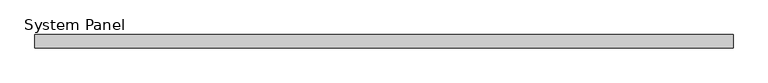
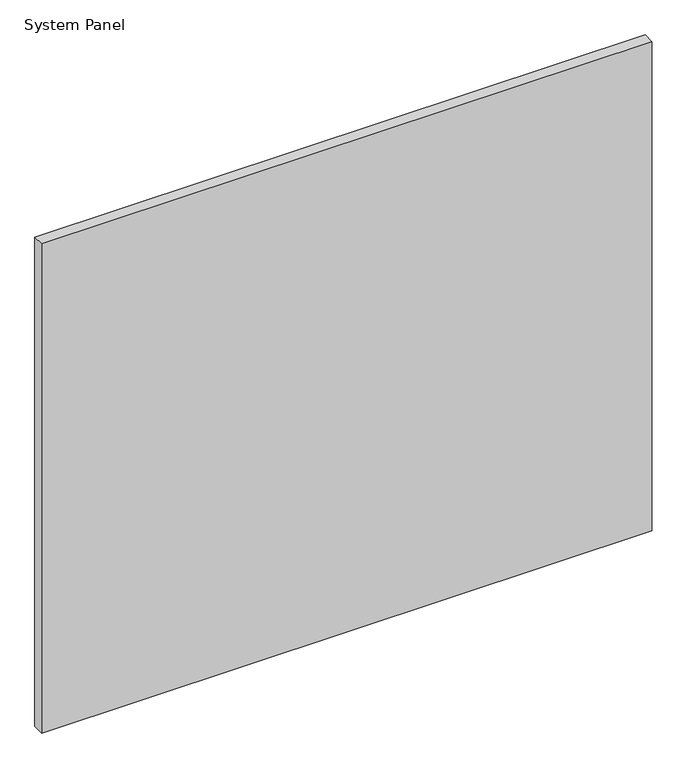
"""IFC4 building model written with IfcOpenShell, lengths in millimetres: plate geometry, System Panel : Glazed - ACMP (AL-1)."""

from ifc_helpers import new_model, si_unit, origin, origin_with_axes, place, context, project, spatial, polyline, outline, extrude, source, transform, mapped, element, save


def system_panel_1c388e69(model_context):
    return source(origin(), model_context, "Body", "SweptSolid", [
        extrude(outline(polyline([(664.1925819, -25.4), (-664.1925819, -25.4), (-664.1925819, 0.0), (664.1925819, 0.0), (664.1925819, -25.4)])), origin_with_axes(), (0.0, 0.0, 1.0), 1124.7926944),
    ])


if __name__ == "__main__":
    model = new_model("IFC4")
    model_context = context("Model", 3, world=origin())
    ifc_project = project(units=[si_unit("LENGTHUNIT", "METRE", prefix="MILLI")], contexts=[model_context])
    site = spatial("IfcSite", under=ifc_project)
    building = spatial("IfcBuilding", under=site)
    placement = place(None, origin())
    system_panel_shape = system_panel_1c388e69(model_context)
    element("IfcPlate", 1, ObjectType="System Panel : Glazed - ACMP (AL-1)", at=placement, inside=building, context=model_context, shape_type="MappedRepresentation", body=[
        mapped(system_panel_shape, transform((0.0, 0.0, 0.0), x_axis=(1.0, 0.0, 0.0), y_axis=(0.0, 1.0, 0.0), z_axis=(0.0, 0.0, 1.0))),
    ])
    save(model, "model.ifc")
